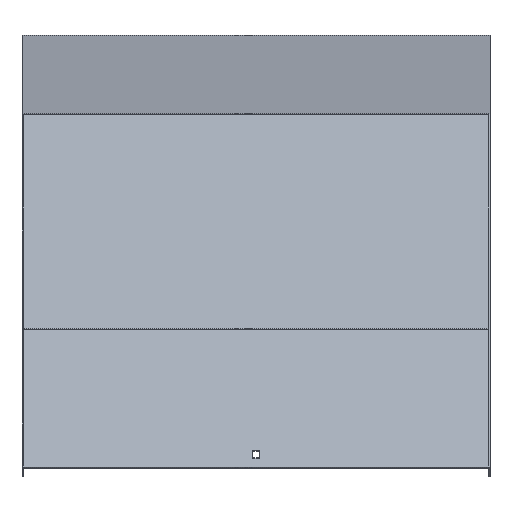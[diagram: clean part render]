
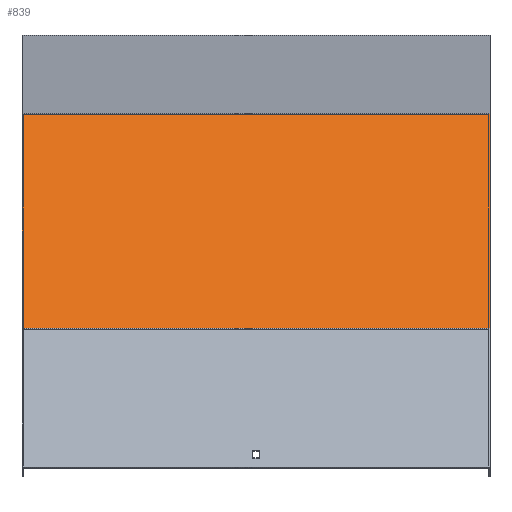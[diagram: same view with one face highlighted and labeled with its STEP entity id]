
A CAD part, top view. The second image highlights one B-rep face of the part: STEP entity #839.
In plain terms, the highlighted planar face has unit normal (0, 0.707, 0.707).
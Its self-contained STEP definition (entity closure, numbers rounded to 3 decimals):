
#63 = ORIENTED_EDGE ( 'NONE', *, *, #687, .F. ) ;
#78 = CARTESIAN_POINT ( 'NONE',  ( 251.5, -68.421, 492.272 ) ) ;
#90 = DIRECTION ( 'NONE',  ( 0., -0.707, 0.707 ) ) ;
#123 = EDGE_CURVE ( 'NONE', #869, #933, #652, .T. ) ;
#127 = CARTESIAN_POINT ( 'NONE',  ( 251.5, -64.632, 488.483 ) ) ;
#133 = VERTEX_POINT ( 'NONE', #633 ) ;
#144 = PLANE ( 'NONE',  #506 ) ;
#161 = VECTOR ( 'NONE', #216, 1000. ) ;
#192 = VECTOR ( 'NONE', #509, 1000. ) ;
#195 = LINE ( 'NONE', #358, #192 ) ;
#216 = DIRECTION ( 'NONE',  ( -1., 0., 0. ) ) ;
#221 = EDGE_CURVE ( 'NONE', #133, #933, #195, .T. ) ;
#228 = CARTESIAN_POINT ( 'NONE',  ( 251.5, -68.421, 492.272 ) ) ;
#258 = DIRECTION ( 'NONE',  ( -1., 0., 0. ) ) ;
#286 = LINE ( 'NONE', #127, #161 ) ;
#358 = CARTESIAN_POINT ( 'NONE',  ( -251.5, -68.421, 492.272 ) ) ;
#402 = EDGE_LOOP ( 'NONE', ( #607, #564, #63, #703 ) ) ;
#409 = CARTESIAN_POINT ( 'NONE',  ( 251.5, -295.85, 719.701 ) ) ;
#448 = DIRECTION ( 'NONE',  ( 0., -0.707, -0.707 ) ) ;
#506 = AXIS2_PLACEMENT_3D ( 'NONE', #78, #448, #754 ) ;
#509 = DIRECTION ( 'NONE',  ( 0., -0.707, 0.707 ) ) ;
#544 = VERTEX_POINT ( 'NONE', #885 ) ;
#564 = ORIENTED_EDGE ( 'NONE', *, *, #123, .F. ) ;
#607 = ORIENTED_EDGE ( 'NONE', *, *, #221, .T. ) ;
#619 = EDGE_CURVE ( 'NONE', #544, #133, #286, .T. ) ;
#633 = CARTESIAN_POINT ( 'NONE',  ( -251.5, -64.632, 488.483 ) ) ;
#652 = LINE ( 'NONE', #803, #678 ) ;
#678 = VECTOR ( 'NONE', #258, 1000. ) ;
#687 = EDGE_CURVE ( 'NONE', #544, #869, #775, .T. ) ;
#703 = ORIENTED_EDGE ( 'NONE', *, *, #619, .T. ) ;
#754 = DIRECTION ( 'NONE',  ( 0., 0.707, -0.707 ) ) ;
#775 = LINE ( 'NONE', #228, #900 ) ;
#803 = CARTESIAN_POINT ( 'NONE',  ( 251.5, -295.85, 719.701 ) ) ;
#835 = FACE_OUTER_BOUND ( 'NONE', #402, .T. ) ;
#839 = ADVANCED_FACE ( 'NONE', ( #835 ), #144, .F. ) ;
#869 = VERTEX_POINT ( 'NONE', #409 ) ;
#884 = CARTESIAN_POINT ( 'NONE',  ( -251.5, -295.85, 719.701 ) ) ;
#885 = CARTESIAN_POINT ( 'NONE',  ( 251.5, -64.632, 488.483 ) ) ;
#900 = VECTOR ( 'NONE', #90, 1000. ) ;
#933 = VERTEX_POINT ( 'NONE', #884 ) ;
